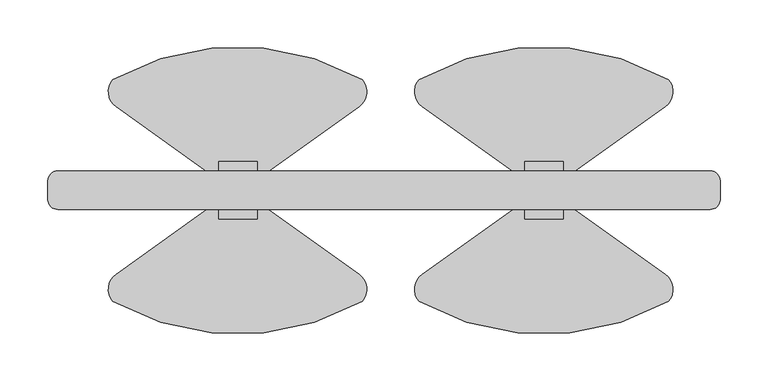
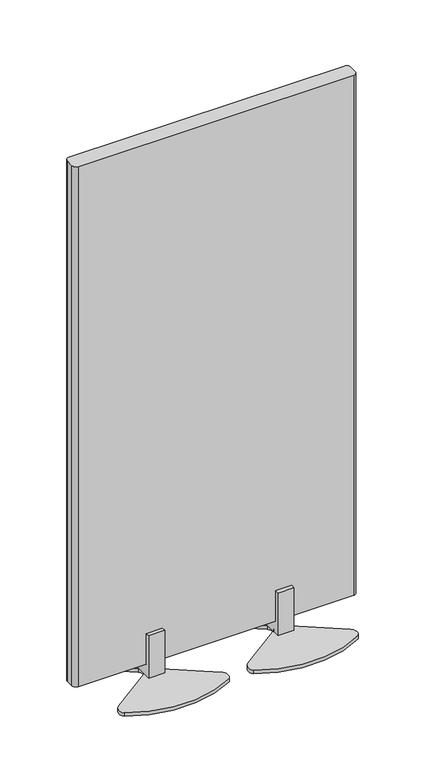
"""IFC4 building model written with IfcOpenShell, lengths in millimetres: furniture geometry, Divisor - COLAB - DA 0714 : Divisor - COLAB - DA 0714."""

from ifc_helpers import new_model, si_unit, point, frame, frame_2d, origin, origin_with_axes, place, context, project, spatial, polyline, circle_curve, trimmed, segment, composite_curve, outline, extrude, source, transform, mapped, element, save


def furniture_aa8f4431(model_context):
    return source(origin(), model_context, "Body", "SweptSolid", [
        extrude(outline(polyline([(120.0, 119.999999), (130.0, 119.999999), (130.0, 39.999999), (170.0, 39.999999), (170.0, 119.999999), (180.0, 119.999999), (180.0, 9.0), (120.0, 9.0), (120.0, 119.999999)])), frame((497.3325, 0.0, 0.0), z_axis=(1.0, 0.0, 0.0), x_axis=(0.0, 1.0, 0.0)), (0.0, 0.0, 1.0), 40.0000021),
        extrude(outline(polyline([(120.0, 119.999999), (130.0, 119.999999), (130.0, 39.999999), (170.0, 39.999999), (170.0, 119.999999), (180.0, 119.999999), (180.0, 9.0), (120.0, 9.0), (120.0, 119.999999)])), frame((178.0625, 0.0, 0.0), z_axis=(1.0, 0.0, 0.0), x_axis=(0.0, 1.0, 0.0)), (0.0, 0.0, 1.0), 40.0000021),
        extrude(outline(composite_curve([segment(polyline([(0.0, 140.0109238), (0.0, 160.0327804)]), True, "CONTINUOUS"), segment(trimmed(circle_curve(frame_2d((10.0109283, 160.0327804)), 10.0109283), [point((0.0, 160.0327804))], [point((10.0109283, 170.0437087))], False, "CARTESIAN"), True, "CONTINUOUS"), segment(polyline([(10.0109283, 170.0437087), (690.7590717, 170.0437087)]), True, "CONTINUOUS"), segment(trimmed(circle_curve(frame_2d((690.7590717, 160.0327804)), 10.0109283), [point((690.7590717, 170.0437087))], [point((700.77, 160.0327804))], False, "CARTESIAN"), True, "CONTINUOUS"), segment(polyline([(700.77, 160.0327804), (700.77, 140.0109238)]), True, "CONTINUOUS"), segment(trimmed(circle_curve(frame_2d((690.7590717, 140.0109238)), 10.0109283), [point((700.77, 140.0109238))], [point((690.7590717, 129.9999955))], False, "CARTESIAN"), True, "CONTINUOUS"), segment(polyline([(690.7590717, 129.9999955), (10.0109283, 129.9999955)]), True, "CONTINUOUS"), segment(trimmed(circle_curve(frame_2d((10.0109283, 140.0109238)), 10.0109283), [point((10.0109283, 129.9999955))], [point((0.0, 140.0109238))], False, "CARTESIAN"), True, "CONTINUOUS")], self_intersect=False)), frame((0.0, 0.0, 40.0000021), z_axis=(0.0, 0.0, 1.0), x_axis=(1.0, 0.0, 0.0)), (0.0, 0.0, 1.0), 1360.0000086),
        extrude(outline(composite_curve([segment(trimmed(circle_curve(frame_2d((487.2919984, 150.0)), 14.8788334), [point((495.936514, 137.8900027))], [point((495.936514, 162.1099973))], True, "CARTESIAN"), True, "CONTINUOUS"), segment(polyline([(495.936514, 162.1099973), (390.3260356, 237.4982406)]), True, "CONTINUOUS"), segment(trimmed(circle_curve(frame_2d((401.4625605, 253.0992637)), 19.1680492), [point((390.3260356, 237.4982406))], [point((387.0885175, 265.779997))], False, "CARTESIAN"), True, "CONTINUOUS"), segment(trimmed(circle_curve(frame_2d((516.9725175, 36.3988773)), 263.601122), [point((387.0885175, 265.779997))], [point((646.8565175, 265.779997))], False, "CARTESIAN"), True, "CONTINUOUS"), segment(trimmed(circle_curve(frame_2d((632.4824745, 253.0992637)), 19.1680492), [point((646.8565175, 265.779997))], [point((643.6188597, 237.4981408))], False, "CARTESIAN"), True, "CONTINUOUS"), segment(polyline([(643.6188597, 237.4981408), (538.006629, 162.1100747)]), True, "CONTINUOUS"), segment(trimmed(circle_curve(frame_2d((546.6510361, 150.0)), 14.8788334), [point((538.006629, 162.1100747))], [point((538.006629, 137.8899253))], True, "CARTESIAN"), True, "CONTINUOUS"), segment(polyline([(538.006629, 137.8899253), (643.6188597, 62.5018592)]), True, "CONTINUOUS"), segment(trimmed(circle_curve(frame_2d((632.4824745, 46.9007363)), 19.1680492), [point((643.6188597, 62.5018592))], [point((646.8565175, 34.220003))], False, "CARTESIAN"), True, "CONTINUOUS"), segment(trimmed(circle_curve(frame_2d((516.9725175, 263.6011227)), 263.601122), [point((646.8565175, 34.220003))], [point((387.0885175, 34.220003))], False, "CARTESIAN"), True, "CONTINUOUS"), segment(trimmed(circle_curve(frame_2d((401.4625605, 46.9007363)), 19.1680492), [point((387.0885175, 34.220003))], [point((390.3260356, 62.5017594))], False, "CARTESIAN"), True, "CONTINUOUS"), segment(polyline([(390.3260356, 62.5017594), (495.936514, 137.8900027)]), True, "CONTINUOUS")], self_intersect=False)), origin_with_axes(), (0.0, 0.0, 1.0), 9.0),
        extrude(outline(composite_curve([segment(trimmed(circle_curve(frame_2d((168.0179809, 150.0)), 14.8788334), [point((176.6624965, 137.8900027))], [point((176.6624965, 162.1099973))], True, "CARTESIAN"), True, "CONTINUOUS"), segment(polyline([(176.6624965, 162.1099973), (71.0520181, 237.4982406)]), True, "CONTINUOUS"), segment(trimmed(circle_curve(frame_2d((82.188543, 253.0992637)), 19.1680492), [point((71.0520181, 237.4982406))], [point((67.8145, 265.779997))], False, "CARTESIAN"), True, "CONTINUOUS"), segment(trimmed(circle_curve(frame_2d((197.6985, 36.3988773)), 263.601122), [point((67.8145, 265.779997))], [point((327.5825, 265.779997))], False, "CARTESIAN"), True, "CONTINUOUS"), segment(trimmed(circle_curve(frame_2d((313.208457, 253.0992637)), 19.1680492), [point((327.5825, 265.779997))], [point((324.3448422, 237.4981408))], False, "CARTESIAN"), True, "CONTINUOUS"), segment(polyline([(324.3448422, 237.4981408), (218.7326115, 162.1100747)]), True, "CONTINUOUS"), segment(trimmed(circle_curve(frame_2d((227.3770186, 150.0)), 14.8788334), [point((218.7326115, 162.1100747))], [point((218.7326115, 137.8899253))], True, "CARTESIAN"), True, "CONTINUOUS"), segment(polyline([(218.7326115, 137.8899253), (324.3448422, 62.5018592)]), True, "CONTINUOUS"), segment(trimmed(circle_curve(frame_2d((313.208457, 46.9007363)), 19.1680492), [point((324.3448422, 62.5018592))], [point((327.5825, 34.220003))], False, "CARTESIAN"), True, "CONTINUOUS"), segment(trimmed(circle_curve(frame_2d((197.6985, 263.6011227)), 263.601122), [point((327.5825, 34.220003))], [point((67.8145, 34.220003))], False, "CARTESIAN"), True, "CONTINUOUS"), segment(trimmed(circle_curve(frame_2d((82.188543, 46.9007363)), 19.1680492), [point((67.8145, 34.220003))], [point((71.0520181, 62.5017594))], False, "CARTESIAN"), True, "CONTINUOUS"), segment(polyline([(71.0520181, 62.5017594), (176.6624965, 137.8900027)]), True, "CONTINUOUS")], self_intersect=False)), origin_with_axes(), (0.0, 0.0, 1.0), 9.0),
    ])


if __name__ == "__main__":
    model = new_model("IFC4")
    model_context = context("Model", 3, world=origin())
    ifc_project = project(units=[si_unit("LENGTHUNIT", "METRE", prefix="MILLI")], contexts=[model_context])
    site = spatial("IfcSite", under=ifc_project)
    building = spatial("IfcBuilding", under=site)
    placement = place(None, origin())
    furniture_shape = furniture_aa8f4431(model_context)
    element("IfcFurniture", 1, ObjectType="Divisor - COLAB - DA 0714 : Divisor - COLAB - DA 0714", at=placement, inside=building, context=model_context, shape_type="MappedRepresentation", body=[
        mapped(furniture_shape, transform((0.0, 0.0, 0.0), x_axis=(1.0, 0.0, 0.0), y_axis=(0.0, 1.0, 0.0), z_axis=(0.0, 0.0, 1.0))),
    ])
    save(model, "model.ifc")
